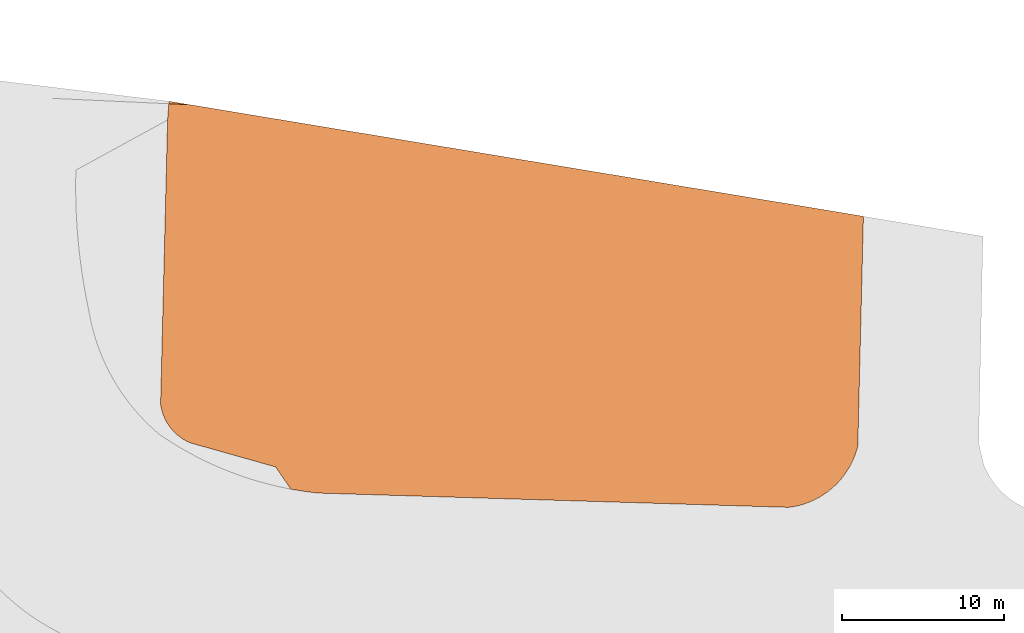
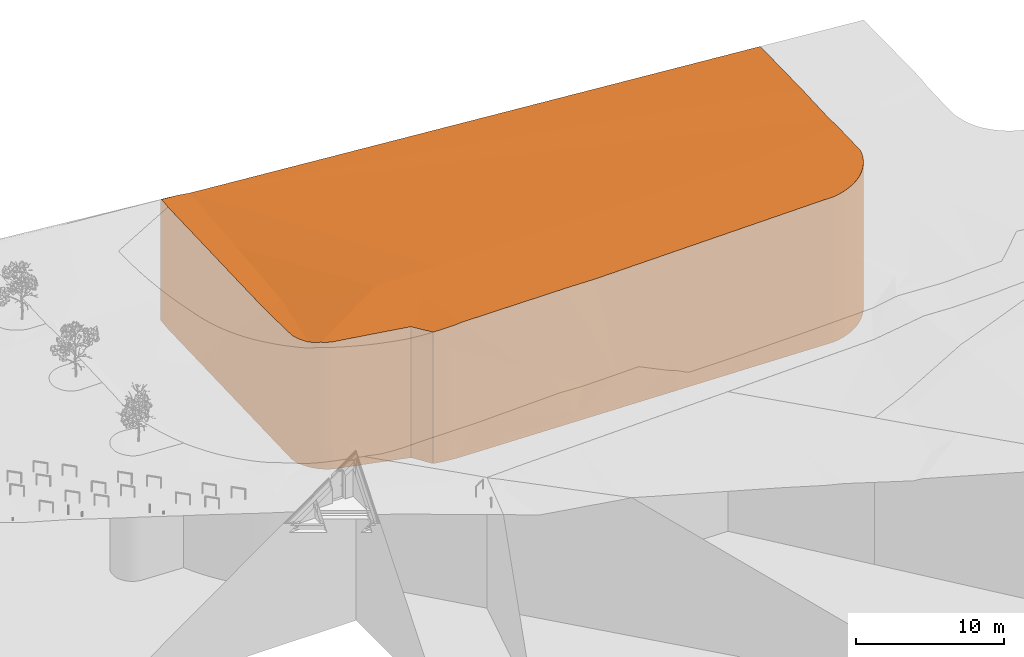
# One storey, part 245 of 246: 1 proxy.
"""IFC2X3 building model written with IfcOpenShell, lengths in millimetres."""

import ifcopenshell
import ifcopenshell.guid

model = None  # the IFC model being written
_history = None  # IfcOwnerHistory: only IFC2X3 demands one
_inside = {}  # id of a spatial element -> (the spatial element, [elements in it])
_under = {}  # id of a project, library or spatial element -> (it, [spatial elements below it])
_declared = {}  # id of a project -> (the project, [libraries it declares])
_typed = {}  # id of a type object -> (the type object, [elements of that type])
_made_of = {}  # id of a material, layer set ... -> (it, [elements and type objects made of it])


def new_model(schema):
    """Start an empty IFC model of exactly this schema.

    Asked for "IFC4X3", IfcOpenShell would pick the latest addendum, in which some entities
    have other attributes; the version numbers below select the first issue.
    IFC2X3 requires an IfcOwnerHistory on every rooted entity: one is made here for all.
    """
    global model, _history
    if schema == "IFC4X3":
        model = ifcopenshell.file(schema_version=(4, 3, 0, 0))
    else:
        model = ifcopenshell.file(schema=schema)
    _inside.clear()
    _under.clear()
    _declared.clear()
    _typed.clear()
    _made_of.clear()
    _history = None
    if model.schema == "IFC2X3":
        org = make("IfcOrganization", Name="unknown")
        user = make(
            "IfcPersonAndOrganization",
            ThePerson=make("IfcPerson", FamilyName="unknown"),
            TheOrganization=org,
        )
        app = make(
            "IfcApplication",
            ApplicationDeveloper=org,
            Version="unknown",
            ApplicationFullName="unknown",
            ApplicationIdentifier="unknown",
        )
        _history = make(
            "IfcOwnerHistory",
            OwningUser=user,
            OwningApplication=app,
            ChangeAction="ADDED",
            CreationDate=0,
        )
    return model


def make(cls, **values):
    """One entity of the class cls with the attributes given. An attribute that is None is left unset."""
    return model.create_entity(
        cls, **{name: value for name, value in values.items() if value is not None}
    )


def entity(cls, *values):
    """Any entity or typed value of the class cls, its attributes in the order of the schema. None: left unset."""
    e = model.create_entity(cls)
    for i, value in enumerate(values):
        if value is not None:
            e[i] = value
    return e


def rooted(cls, **values):
    """An entity with a GlobalId (a new one), such as an element, a storey or a relation."""
    return make(cls, GlobalId=ifcopenshell.guid.new(), OwnerHistory=_history, **values)


def si_unit(unit_type, name, prefix=None):
    """IfcSIUnit, for example si_unit("LENGTHUNIT", "METRE", prefix="MILLI")."""
    return make("IfcSIUnit", UnitType=unit_type, Prefix=prefix, Name=name)


def converted_unit(unit_type, name, factor, base, dimensions=None, offset=None):
    """IfcConversionBasedUnit, such as the inch: factor (a typed value) times the base unit."""
    return make(
        "IfcConversionBasedUnit"
        if offset is None
        else "IfcConversionBasedUnitWithOffset",
        ConversionOffset=offset,
        Dimensions=None
        if dimensions is None
        else entity("IfcDimensionalExponents", *dimensions),
        UnitType=unit_type,
        Name=name,
        ConversionFactor=make(
            "IfcMeasureWithUnit", ValueComponent=factor, UnitComponent=base
        ),
    )


def derived_unit(unit_type, elements):
    """IfcDerivedUnit: a product of units, each with its exponent."""
    return make(
        "IfcDerivedUnit",
        Elements=[
            make("IfcDerivedUnitElement", Unit=unit, Exponent=power)
            for unit, power in elements
        ],
        UnitType=unit_type,
    )


def money_unit(currency):
    """IfcMonetaryUnit."""
    return make("IfcMonetaryUnit", Currency=currency)


def assignment(units):
    """IfcUnitAssignment: the units of a project."""
    return None if units is None else make("IfcUnitAssignment", Units=units)


def point(xyz):
    """IfcCartesianPoint."""
    return None if xyz is None else make("IfcCartesianPoint", Coordinates=xyz)


def direction(xyz):
    """IfcDirection."""
    return None if xyz is None else make("IfcDirection", DirectionRatios=xyz)


def frame(location, z_axis=None, x_axis=None):
    """IfcAxis2Placement3D, a coordinate frame: its origin and axes. An axis left out is left unset."""
    return make(
        "IfcAxis2Placement3D",
        Location=point(location),
        Axis=direction(z_axis),
        RefDirection=direction(x_axis),
    )


def origin_with_axes():
    """The frame at (0, 0, 0) with the z axis (0, 0, 1) and the x axis (1, 0, 0) written out."""
    return frame((0.0, 0.0, 0.0), z_axis=(0.0, 0.0, 1.0), x_axis=(1.0, 0.0, 0.0))


def place(relative_to, where):
    """IfcLocalPlacement: puts the frame where relative to a parent placement (None: the world)."""
    return make(
        "IfcLocalPlacement", PlacementRelTo=relative_to, RelativePlacement=where
    )


def context(
    kind, dimensions, precision=None, world=None, true_north=None, identifier=None
):
    """IfcGeometricRepresentationContext, for example the 3D "Model" context."""
    return make(
        "IfcGeometricRepresentationContext",
        ContextIdentifier=identifier,
        ContextType=kind,
        CoordinateSpaceDimension=dimensions,
        Precision=precision,
        WorldCoordinateSystem=world,
        TrueNorth=true_north,
    )


def subcontext(parent, identifier, kind, view, scale=None):
    """IfcGeometricRepresentationSubContext, for example "Body" below "Model"."""
    return make(
        "IfcGeometricRepresentationSubContext",
        ContextIdentifier=identifier,
        ContextType=kind,
        ParentContext=parent,
        TargetScale=scale,
        TargetView=view,
    )


def project(units=None, contexts=None):
    """IfcProject with its units and contexts."""
    return rooted(
        "IfcProject",
        Name="project",
        RepresentationContexts=contexts,
        UnitsInContext=assignment(units),
    )


def spatial(cls, under=None, at=None, **own):
    """A site, building, storey or space (cls), placed at a placement, below another one or the project."""
    s = rooted(cls, ObjectPlacement=at, **own)
    if under is not None:
        _under.setdefault(under.id(), (under, []))[1].append(s)
    return s


def faces_of(points, faces, orient=None, outer=None):
    """IfcFace entities. A face is a list of loops; a loop is a list of indices into points, from 0.

    orient and outer hold one flag for each loop. By default every Orientation is true, the
    first loop of a face is its IfcFaceOuterBound and the others are IfcFaceBound.
    """
    made = []
    for i, loops in enumerate(faces):
        bounds = []
        for j, loop in enumerate(loops):
            is_outer = j == 0 if outer is None else outer[i][j]
            bounds.append(
                make(
                    "IfcFaceOuterBound" if is_outer else "IfcFaceBound",
                    Bound=make("IfcPolyLoop", Polygon=[points[k] for k in loop]),
                    Orientation=True if orient is None else orient[i][j],
                )
            )
        made.append(make("IfcFace", Bounds=bounds))
    return made


def faceted_brep(points, faces, orient=None, outer=None, voids=None):
    """IfcFacetedBrep: a solid bounded by flat faces; with voids (closed shells), ...WithVoids."""
    shared = [point(p) for p in points]
    hull = make("IfcClosedShell", CfsFaces=faces_of(shared, faces, orient, outer))
    if voids is None:
        return make("IfcFacetedBrep", Outer=hull)
    return make(
        "IfcFacetedBrepWithVoids",
        Outer=hull,
        Voids=[
            make(cls, CfsFaces=faces_of(shared, fs, o, b)) for cls, fs, o, b in voids
        ],
    )


def shape(context_of_items, identifier, shape_type, items):
    """IfcShapeRepresentation: the items that make up one representation, for example the "Body"."""
    return make(
        "IfcShapeRepresentation",
        ContextOfItems=context_of_items,
        RepresentationIdentifier=identifier,
        RepresentationType=shape_type,
        Items=items,
    )


def material(Name=None, Category=None):
    """IfcMaterial."""
    return make("IfcMaterial", Name=Name, Category=Category)


def made_of(thing, what):
    """Note that an element or type object is made of a material, layer set ...; save() writes the relation."""
    if what is not None:
        _made_of.setdefault(what.id(), (what, []))[1].append(thing)
    return thing


def type_object(cls, material=None, **own):
    """A type object (cls), such as IfcWallType, which elements share."""
    return made_of(rooted(cls, **own), material)


def element(
    cls,
    number,
    at=None,
    inside=None,
    cuts=None,
    type_object=None,
    material=None,
    context=None,
    identifier="Body",
    shape_type=None,
    held_by="IfcProductDefinitionShape",
    body=None,
    shapes=None,
    **own,
):
    """One element of the class cls, such as IfcWall. Its Tag is "e" and its number.

    at: its placement. inside: the storey or other place that contains it. cuts: it is an
    opening in that element (IfcRelVoidsElement). A single representation is given by context,
    identifier, shape_type and body (its items); several are given by shapes. held_by: the class
    of the entity that holds the representations. save() writes the other relations.
    """
    e = rooted(cls, Tag="e%d" % number, ObjectPlacement=at, **own)
    if body is not None:
        shapes = [shape(context, identifier, shape_type, body)]
    if shapes is not None:
        e.Representation = make(held_by, Representations=shapes)
    if inside is not None:
        _inside.setdefault(inside.id(), (inside, []))[1].append(e)
    if cuts is not None:
        rooted(
            "IfcRelVoidsElement", RelatingBuildingElement=cuts, RelatedOpeningElement=e
        )
    if type_object is not None:
        _typed.setdefault(type_object.id(), (type_object, []))[1].append(e)
    return made_of(e, material)


def aggregate(whole, parts):
    """IfcRelAggregates: a whole, such as a stair, and the parts it consists of."""
    return rooted("IfcRelAggregates", RelatingObject=whole, RelatedObjects=parts)


def save(model, path):
    """Write the relations noted so far, then the file.

    IfcRelAggregates (storeys below a building ...), IfcRelContainedInSpatialStructure (elements
    in a storey), IfcRelDefinesByType, IfcRelAssociatesMaterial and IfcRelDeclares: one each for
    every whole, place, type object, material and project.
    """
    for whole, parts in _under.values():
        aggregate(whole, parts)
    for where, things in _inside.values():
        rooted(
            "IfcRelContainedInSpatialStructure",
            RelatedElements=things,
            RelatingStructure=where,
        )
    for kind, things in _typed.values():
        rooted("IfcRelDefinesByType", RelatedObjects=things, RelatingType=kind)
    for what, things in _made_of.values():
        rooted("IfcRelAssociatesMaterial", RelatedObjects=things, RelatingMaterial=what)
    for by, libraries in _declared.values():
        rooted("IfcRelDeclares", RelatingContext=by, RelatedDefinitions=libraries)
    model.write(path)


model = new_model("IFC2X3")

# Units and contexts
model_context = context("Model", 3, precision=0.01, world=origin_with_axes(), true_north=direction((0.0, 1.0)))
body_context = subcontext(model_context, "Body", "Model", "MODEL_VIEW")
ifc_project = project(units=[si_unit("LENGTHUNIT", "METRE", prefix="MILLI"), si_unit("AREAUNIT", "SQUARE_METRE"), si_unit("VOLUMEUNIT", "CUBIC_METRE"), converted_unit("PLANEANGLEUNIT", "DEGREE", entity("IfcPlaneAngleMeasure", 0.0174532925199), si_unit("PLANEANGLEUNIT", "RADIAN"), dimensions=[0, 0, 0, 0, 0, 0, 0]), si_unit("SOLIDANGLEUNIT", "STERADIAN"), money_unit("EUR"), converted_unit("TIMEUNIT", "Year", entity("IfcTimeMeasure", 31556926.0), si_unit("TIMEUNIT", "SECOND"), dimensions=[0, 0, 1, 0, 0, 0, 0]), si_unit("MASSUNIT", "GRAM", prefix="KILO"), si_unit("THERMODYNAMICTEMPERATUREUNIT", "DEGREE_CELSIUS"), si_unit("LUMINOUSINTENSITYUNIT", "LUMEN"), si_unit("ENERGYUNIT", "JOULE", prefix="MEGA"), derived_unit("THERMALCONDUCTANCEUNIT", [(si_unit("POWERUNIT", "WATT"), 1), (si_unit("LENGTHUNIT", "METRE"), -1), (si_unit("THERMODYNAMICTEMPERATUREUNIT", "KELVIN"), -1)]), derived_unit("SPECIFICHEATCAPACITYUNIT", [(si_unit("ENERGYUNIT", "JOULE"), 1), (si_unit("MASSUNIT", "GRAM", prefix="KILO"), -1), (si_unit("THERMODYNAMICTEMPERATUREUNIT", "KELVIN"), -1)]), derived_unit("MASSDENSITYUNIT", [(si_unit("MASSUNIT", "GRAM", prefix="KILO"), 1), (si_unit("VOLUMEUNIT", "CUBIC_METRE"), -1)])], contexts=[model_context])

# Site, building, storey
site_placement = place(None, origin_with_axes())
site = spatial("IfcSite", under=ifc_project, at=site_placement, Name="L.Koidula tn 11b", CompositionType="ELEMENT")
building_placement = place(site_placement, origin_with_axes())
building = spatial("IfcBuilding", under=site, at=building_placement, Name="Rakvere Riigigümnaasium", CompositionType="ELEMENT")
storey_placement = place(building_placement, origin_with_axes())
storey = spatial("IfcBuildingStorey", under=building, at=storey_placement, Name="1.korrus 0,00", CompositionType="ELEMENT", Elevation=0.0)

# Proxy
ifc_material = material(Name="Roheala")
building_element_proxy_type = type_object("IfcBuildingElementProxyType", Name="Roheala", PredefinedType="NOTDEFINED")
proxy_placement = place(storey_placement, frame((53369.7430606, 84403.0235717, -10000.0), z_axis=(0.0, 0.0, 1.0), x_axis=(1.0, 0.0, 0.0)))
element("IfcBuildingElementProxy", 1, at=proxy_placement, inside=storey, type_object=building_element_proxy_type, material=ifc_material, Name="Väljak", context=body_context, shape_type="Brep", body=[
    faceted_brep([(3020.35395068, 24630.0950497, 10019.3011213), (3275.83475416, 24587.7676182, 10032.5220415), (43341.6457598, 17949.7625317, 11957.5202713), (43341.6457598, 17949.7625317, 0.0), (518.785909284, 25044.548694, 0.0), (518.785909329, 25044.5486944, 10000.0), (1824.61702389, 24828.2018047, 10034.7131149), (2522.78162659, 24712.5316094, 10003.9248004), (2620.97912433, 24696.2624893, 10000.0), (2682.48408192, 24686.0724991, 10007.7813323), (2743.04177448, 24676.0394495, 10009.6879827), (2784.78863703, 24669.1229319, 10011.5340563), (2838.25419317, 24660.26489, 10013.6844789), (2881.68560079, 24653.0692811, 10015.0831983), (43103.1922906, 8204.4626773, 11988.2404595), (43197.7265817, 12067.962825, 12034.8841574), (43007.9045283, 4310.16908765, 12078.7167382), (42994.9480225, 3780.65264132, 12082.2978255), (42994.9480225, 3780.65264132, 0.0), (43075.4833491, 7072.03233657, 12074.5178056), (43075.3721269, 7067.4868201, 12074.4712863), (43070.9347269, 6886.13574368, 12075.8001096), (43065.5884966, 6667.64188785, 12077.4394614), (43044.8693022, 5820.87390853, 12067.9042152), (431.538093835, 23888.8255414, 0.0), (42967.4494227, 3667.99964571, 0.0), (42904.521756, 3452.66128631, 0.0), (42831.9963342, 3240.3629974, 0.0), (42750.019214, 3031.53231949, 0.0), (42658.7554864, 2826.58980976, 0.0), (42558.3889443, 2625.94819516, 0.0), (42449.1217127, 2430.0115412, 0.0), (42331.1738412, 2239.17443821, 0.0), (42204.7828611, 2053.82120675, 0.0), (42070.2033069, 1874.32512353, 0.0), (41927.7062042, 1701.04766978, 0.0), (41777.5785229, 1534.33780325, 0.0), (41620.1226004, 1374.5312554, 0.0), (41455.6555319, 1221.94985537, 0.0), (41284.5085321, 1076.90088179, 0.0), (41107.0262683, 939.676443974, 0.0), (40923.5661663, 810.552893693, 0.0), (40734.4976902, 689.790268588, 0.0), (40540.2015988, 577.631768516, 0.0), (40341.0691786, 474.303265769, 0.0), (40137.5014557, 380.0128502, 0.0), (39929.9083884, 294.950410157, 0.0), (39718.7080417, 219.287250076, 0.0), (39504.3257447, 153.17574549, 0.0), (39287.1932351, 96.7490361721, 0.0), (39067.7477887, 50.1207580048, 0.0), (38846.4313394, 13.384814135, 0.0), (38735.0604644, 0.0, 0.0), (9747.46962386, 878.641276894, 0.0), (9619.64775803, 890.815223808, 0.0), (9163.41229901, 945.250740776, 0.0), (8708.47781108, 1009.66061018, 0.0), (8255.06232988, 1084.01396241, 0.0), (8029.22274645, 1126.14456234, 0.0), (7096.72489983, 2490.96495472, 0.0), (1825.92494753, 3978.02391535, 0.0), (1763.26018254, 4003.85213045, 0.0), (1605.77780953, 4079.83394511, 0.0), (1452.9344699, 4164.76242972, 0.0), (1305.23789385, 4258.3554604, 0.0), (1163.17871456, 4360.30213051, 0.0), (1027.22883834, 4470.26378347, 0.0), (897.83987699, 4587.87513772, 0.0), (775.441647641, 4712.74550017, 0.0), (660.440744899, 4844.46006404, 0.0), (553.219190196, 4982.58128679, 0.0), (454.133162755, 5126.65034361, 0.0), (363.511816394, 5276.18865159, 0.0), (281.656186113, 5430.69945949, 0.0), (208.838188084, 5589.66949795, 0.0), (145.299716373, 5752.5706845, 0.0), (91.2518393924, 5918.86187778, 0.0), (46.8740987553, 6087.99067516, 0.0), (12.3139128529, 6259.39524779, 0.0), (0.0, 6345.95072735, 0.0), (507.048727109, 24889.0727877, 10091.6839285), (431.538093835, 23888.8255414, 10087.727701), (412.826445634, 23128.1601293, 10083.0580436), (284.799749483, 17923.6223712, 10074.1284582), (2141.15462576, 17641.0454555, 10000.0), (11825.1485529, 7242.48620135, 11300.0), (20527.7396883, 6974.27421922, 11500.0), (25820.4798124, 6811.15310907, 11700.0), (31899.0053852, 6623.81426163, 11900.0), (36341.2018817, 6486.90672389, 12000.0), (38866.2592662, 3907.89795786, 12000.0), (42976.4109402, 3704.71212534, 12082.4826671), (42967.4494227, 3667.99964571, 12082.5480938), (36357.2339924, 6470.53206512, 12000.0), (37171.1537193, 5639.22180491, 12000.0), (42904.521756, 3452.66128631, 12082.7272616), (42831.9963342, 3240.3629974, 12082.6968856), (42750.019214, 3031.53231949, 12082.4570269), (42677.4588336, 2868.59018627, 12082.1001564), (42658.7554864, 2826.58980976, 12082.0475656), (42558.3889443, 2625.94819516, 12081.5813295), (42449.1217127, 2430.0115412, 12080.9064155), (42331.1738412, 2239.17443821, 12080.0241828), (42204.7828611, 2053.82120675, 12078.936408), (42070.2033069, 1874.32512353, 12077.6452819), (41930.4735538, 1704.41278587, 12076.3111484), (41927.7062042, 1701.04766978, 12076.2779161), (41994.0856419, 1781.76552105, 12076.848366), (41777.5785229, 1534.33780325, 12074.3694792), (41620.1226004, 1374.5312554, 12072.2676541), (41455.6555319, 1221.94985537, 12069.9766736), (41284.5085321, 1076.90088179, 12067.5011514), (41107.0262683, 939.676443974, 12064.8460728), (40923.5661663, 810.552893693, 12062.0167849), (40857.442894, 768.318354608, 12060.9683589), (40734.4976902, 689.790268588, 12059.0372431), (40540.2015988, 577.631768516, 12055.9023733), (40341.0691786, 474.303265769, 12052.6086695), (40137.5014557, 380.0128502, 12049.1627647), (39929.9083884, 294.950410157, 12045.5715985), (39887.2888753, 279.681841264, 12044.8190595), (39718.7080417, 219.287250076, 12042.2269995), (39504.3257447, 153.17574549, 12038.7956274), (39384.9940226, 122.164744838, 12036.8124859), (39287.1932351, 96.7490361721, 12034.2489469), (39067.7477887, 50.1207580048, 12028.609248), (38846.4313394, 13.384814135, 12023.0326516), (38735.0604644, 0.0, 12020.2815198), (10094.2663272, 868.129541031, 11122.6004362), (9747.46962386, 878.641276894, 11081.3732637), (37856.1704482, 26.6399870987, 12000.0), (35378.3241528, 101.745850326, 11900.0), (30918.0363478, 236.941389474, 11721.7496268), (30373.6742019, 253.441520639, 11700.0), (25367.95939, 405.169467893, 11500.0), (20362.244579, 556.89741512, 11300.0), (20162.0313908, 562.966066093, 11300.0), (18092.6280514, 625.69163727, 11290.7696722), (17824.7606833, 633.810950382, 11281.8789882), (17667.713703, 638.571192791, 11277.5950037), (12989.4827893, 780.372793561, 11183.9442139), (9619.64775803, 890.815223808, 11066.519105), (9163.41229901, 945.250740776, 11013.9517006), (8708.47781108, 1009.66061018, 10961.9507467), (8255.06232988, 1084.01396241, 10910.5411656), (8029.22274645, 1126.14456234, 10885.1443811), (7225.58582761, 2302.36181462, 10836.9752677), (7096.72489983, 2490.96495472, 10840.1690751), (3403.8544663, 3532.84021433, 10624.4623109), (1825.92494753, 3978.02391535, 10523.1811725), (6719.91268616, 2597.27556865, 10816.8414223), (5259.37567398, 3009.33913982, 10736.0551133), (5065.41011254, 3064.06294433, 10724.291353), (1763.26018254, 4003.85213045, 10519.7213781), (1605.77780953, 4079.83394511, 10511.7908628), (1452.9344699, 4164.76242972, 10504.8659455), (1305.23789385, 4258.3554604, 10498.9696303), (1163.17871456, 4360.30213051, 10494.121504), (1120.8650343, 4394.52711367, 10492.9438062), (1027.22883834, 4470.26378347, 10470.1816226), (897.83987699, 4587.87513772, 10437.4922927), (775.441647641, 4712.74550017, 10405.2705125), (660.440744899, 4844.46006404, 10373.6233194), (553.219190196, 4982.58128679, 10342.6558422), (538.556531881, 5003.90049202, 10338.1891101), (454.133162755, 5126.65034361, 10333.0714816), (363.511816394, 5276.18865159, 10326.563421), (281.656186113, 5430.69945949, 10319.5753778), (208.838188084, 5589.66949795, 10312.1305654), (145.299716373, 5752.5706845, 10304.2537148), (91.2518393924, 5918.86187778, 10295.9709921), (46.8740987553, 6087.99067516, 10287.3099116), (12.3139128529, 6259.39524779, 10278.2992447), (0.0, 6345.95072735, 10273.6340843), (67.0723680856, 9072.57480437, 10116.4938991), (75.1318395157, 9400.20821701, 10098.2354718), (76.7417047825, 9465.6524159, 10095.0042529), (82.4697696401, 9698.50955218, 10084.4079248), (83.5954860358, 9744.27214438, 10082.505735), (88.0800342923, 9926.57787772, 10075.5786129), (88.5052552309, 9943.86394771, 10074.9783357), (94.0951666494, 10171.1048741, 10067.9620231), (96.7942216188, 10280.8267831, 10065.3868708), (99.5864160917, 10394.3349966, 10063.0618171), (102.042308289, 10494.1718592, 10061.4742273), (104.448108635, 10591.9723892, 10060.2421434), (107.764875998, 10726.8055256, 10059.2022452), (111.335154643, 10871.9443956, 10058.6000695), (111.637415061, 10884.2318778, 10058.5664579), (112.377427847, 10914.3148574, 10058.5120981), (116.682403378, 11089.3206052, 10058.4291048), (122.040936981, 11307.155567, 10058.7322838), (261.271224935, 16967.1414334, 10067.8177053), (266.078183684, 17162.5537893, 10068.4596704), (267.06916555, 17202.839157, 10068.6358676), (267.85592013, 17234.8222827, 10068.7883384), (268.286801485, 17252.3384598, 10068.8679998), (272.188008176, 17410.9302078, 10069.7635354), (277.869887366, 17641.9098055, 10071.4576959), (283.784800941, 17882.3627108, 10073.6894831), (7102.82252022, 7388.02727076, 11200.0), (14109.2986752, 4670.90214469, 11300.0), (21322.9798646, 5590.1925029, 11500.0), (26090.8968551, 6241.17694598, 11700.0), (26329.8918141, 5737.43121869, 11700.0), (32340.5473229, 5990.72980157, 11900.0), (33857.5990141, 4062.26378623, 11900.0), (37695.5347594, 374.565530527, 12000.0), (36772.5943265, 2404.61513706, 12000.0), (9386.97264269, 4816.44321503, 11200.0), (35278.5993164, 317.742794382, 11900.0), (34273.3359318, 2472.39026451, 11900.0), (29275.1733991, 2607.9309131, 11700.0), (25282.2742453, 588.824103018, 11500.0), (24277.0108667, 2743.47156074, 11500.0), (20156.2458265, 998.428158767, 11300.0), (19571.3141654, 2252.15085849, 11300.0), (17022.6043375, 3486.63444269, 11300.0), (18188.5503404, 1124.81892076, 11300.0), (7736.01837728, 6675.1510224, 11200.0), (1654.87940495, 10490.978649, 10000.0), (21925.2581078, 4430.01596021, 11500.0), (27089.3070388, 4270.86108574, 11700.0)], [[[0, 1, 2, 3, 4, 5, 6, 7, 8, 9, 10, 11, 12, 13]], [[14, 15, 1, 0]], [[15, 2, 1]], [[16, 17, 18, 3, 2, 15, 14, 19, 20, 21, 22, 23]], [[24, 4, 3, 18, 25, 26, 27, 28, 29, 30, 31, 32, 33, 34, 35, 36, 37, 38, 39, 40, 41, 42, 43, 44, 45, 46, 47, 48, 49, 50, 51, 52, 53, 54, 55, 56, 57, 58, 59, 60, 61, 62, 63, 64, 65, 66, 67, 68, 69, 70, 71, 72, 73, 74, 75, 76, 77, 78, 79]], [[80, 5, 4, 24, 81]], [[6, 5, 80]], [[7, 6, 80, 81, 82]], [[8, 7, 82, 83, 84]], [[9, 8, 84, 85]], [[10, 9, 85, 86]], [[11, 10, 86, 87]], [[12, 11, 87, 88]], [[13, 12, 88, 89]], [[19, 14, 0, 13, 89]], [[17, 16, 90, 91]], [[91, 92, 25, 18, 17]], [[20, 19, 89, 93]], [[21, 20, 93]], [[22, 21, 93]], [[23, 22, 93, 94, 90]], [[16, 23, 90]], [[92, 95, 26, 25]], [[95, 96, 27, 26]], [[96, 97, 28, 27]], [[98, 99, 29, 28, 97]], [[99, 100, 30, 29]], [[100, 101, 31, 30]], [[101, 102, 32, 31]], [[102, 103, 33, 32]], [[103, 104, 34, 33]], [[105, 106, 35, 34, 104, 107]], [[106, 108, 36, 35]], [[108, 109, 37, 36]], [[109, 110, 38, 37]], [[110, 111, 39, 38]], [[111, 112, 40, 39]], [[112, 113, 41, 40]], [[114, 115, 42, 41, 113]], [[115, 116, 43, 42]], [[116, 117, 44, 43]], [[117, 118, 45, 44]], [[118, 119, 46, 45]], [[120, 121, 47, 46, 119]], [[121, 122, 48, 47]], [[123, 124, 49, 48, 122]], [[124, 125, 50, 49]], [[125, 126, 51, 50]], [[126, 127, 52, 51]], [[128, 129, 53, 52, 127, 130, 131, 132, 133, 134, 135, 136, 137, 138, 139, 140]], [[129, 141, 54, 53]], [[141, 142, 55, 54]], [[142, 143, 56, 55]], [[143, 144, 57, 56]], [[144, 145, 58, 57]], [[146, 147, 59, 58, 145]], [[148, 149, 60, 59, 147, 150, 151, 152]], [[149, 153, 61, 60]], [[153, 154, 62, 61]], [[154, 155, 63, 62]], [[155, 156, 64, 63]], [[156, 157, 65, 64]], [[158, 159, 66, 65, 157]], [[159, 160, 67, 66]], [[160, 161, 68, 67]], [[161, 162, 69, 68]], [[162, 163, 70, 69]], [[164, 165, 71, 70, 163]], [[165, 166, 72, 71]], [[166, 167, 73, 72]], [[167, 168, 74, 73]], [[168, 169, 75, 74]], [[169, 170, 76, 75]], [[170, 171, 77, 76]], [[171, 172, 78, 77]], [[172, 173, 79, 78]], [[82, 81, 24, 79, 173, 174, 175, 176, 177, 178, 179, 180, 181, 182, 183, 184, 185, 186, 187, 188, 189, 190, 191, 192, 193, 194, 195, 196, 197, 198, 199, 83]], [[83, 199, 84]], [[85, 84, 200]], [[201, 86, 85]], [[202, 87, 86]], [[87, 203, 204, 88]], [[205, 89, 88]], [[92, 91, 90, 98, 97, 96, 95]], [[94, 93, 89, 206]], [[207, 90, 94, 208]], [[99, 98, 90, 107, 104, 103, 102, 101, 100]], [[106, 105, 90, 207, 114, 113, 112, 111, 110, 109, 108]], [[105, 107, 90]], [[115, 114, 207, 120, 119, 118, 117, 116]], [[121, 120, 207, 123, 122]], [[124, 123, 207, 130, 127, 126, 125]], [[129, 128, 209, 146, 145, 144, 143, 142, 141]], [[131, 130, 207, 210]], [[132, 131, 210]], [[133, 132, 210, 211, 212]], [[134, 133, 212, 213]], [[135, 134, 213, 214, 215]], [[136, 135, 215, 216, 217, 218]], [[137, 136, 218]], [[138, 137, 218]], [[139, 138, 218]], [[140, 139, 218, 201]], [[128, 140, 201, 209]], [[147, 146, 209, 219, 150]], [[149, 148, 200, 158, 157, 156, 155, 154, 153]], [[151, 150, 219]], [[152, 151, 219, 200]], [[148, 152, 200]], [[159, 158, 200, 220, 164, 163, 162, 161, 160]], [[165, 164, 220, 174, 173, 172, 171, 170, 169, 168, 167, 166]], [[175, 174, 220]], [[176, 175, 220]], [[177, 176, 220]], [[178, 177, 220]], [[179, 178, 220]], [[180, 179, 220]], [[181, 180, 220]], [[182, 181, 220]], [[183, 182, 220]], [[184, 183, 220]], [[185, 184, 220]], [[186, 185, 220]], [[187, 186, 220]], [[188, 187, 220]], [[189, 188, 220]], [[190, 189, 220]], [[191, 190, 220]], [[192, 191, 220, 84]], [[193, 192, 84]], [[194, 193, 84]], [[195, 194, 84]], [[196, 195, 84]], [[197, 196, 84]], [[198, 197, 84]], [[199, 198, 84]], [[84, 220, 200]], [[219, 209, 201, 85, 200]], [[86, 201, 217]], [[221, 87, 202]], [[202, 86, 217]], [[203, 87, 221]], [[204, 203, 214]], [[222, 88, 204]], [[206, 89, 205]], [[212, 205, 88]], [[94, 206, 208]], [[207, 208, 210]], [[208, 211, 210]], [[206, 212, 211, 208]], [[212, 222, 213]], [[213, 222, 214]], [[215, 214, 221]], [[221, 216, 215]], [[202, 217, 216]], [[217, 201, 218]], [[216, 221, 202]], [[214, 203, 221]], [[214, 222, 204]], [[212, 88, 222]], [[212, 206, 205]]]),
])

save(model, "model.ifc")
